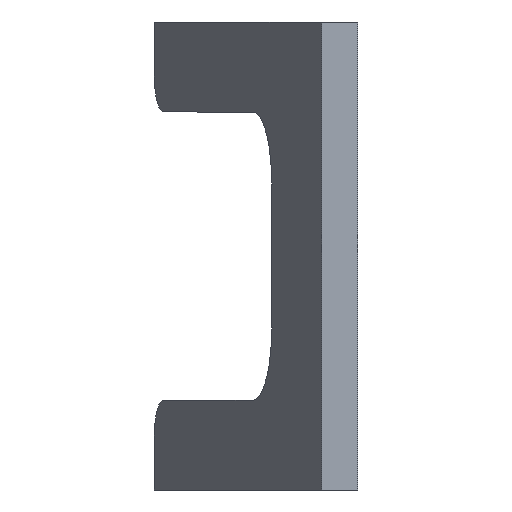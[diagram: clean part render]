
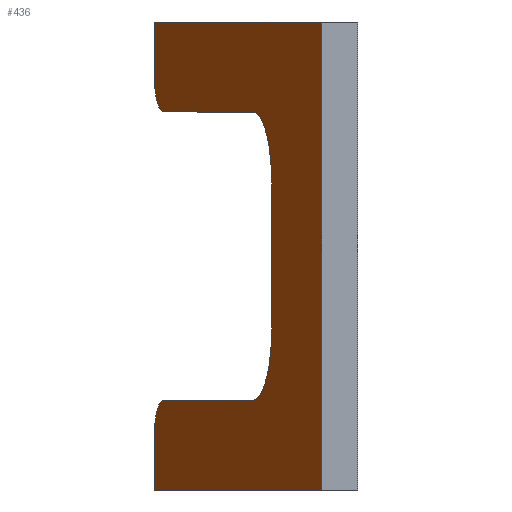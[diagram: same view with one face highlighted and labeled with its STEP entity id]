
A CAD part, left-side view. The second image highlights one B-rep face of the part: STEP entity #436.
In plain terms, the highlighted planar face has unit normal (-0.259, 0.966, 0).
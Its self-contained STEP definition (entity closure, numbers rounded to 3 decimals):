
#5 = CIRCLE ( 'NONE', #439, 10. ) ;
#7 = VERTEX_POINT ( 'NONE', #691 ) ;
#8 = CARTESIAN_POINT ( 'NONE',  ( 61.05, 23.243, -32.5 ) ) ;
#10 = VERTEX_POINT ( 'NONE', #408 ) ;
#13 = ORIENTED_EDGE ( 'NONE', *, *, #153, .T. ) ;
#44 = EDGE_CURVE ( 'NONE', #152, #7, #346, .T. ) ;
#53 = VECTOR ( 'NONE', #171, 1000. ) ;
#61 = PLANE ( 'NONE',  #202 ) ;
#63 = DIRECTION ( 'NONE',  ( -0.259, 0.966, 0. ) ) ;
#64 = ORIENTED_EDGE ( 'NONE', *, *, #44, .T. ) ;
#68 = DIRECTION ( 'NONE',  ( 0.966, 0.259, 0. ) ) ;
#89 = EDGE_LOOP ( 'NONE', ( #184, #275, #117, #186, #549, #64, #435, #13, #156, #266, #444, #649 ) ) ;
#91 = AXIS2_PLACEMENT_3D ( 'NONE', #97, #588, #311 ) ;
#97 = CARTESIAN_POINT ( 'NONE',  ( 56.22, 21.949, -25. ) ) ;
#117 = ORIENTED_EDGE ( 'NONE', *, *, #398, .T. ) ;
#122 = DIRECTION ( 'NONE',  ( 0., 0., 1. ) ) ;
#152 = VERTEX_POINT ( 'NONE', #470 ) ;
#153 = EDGE_CURVE ( 'NONE', #605, #10, #5, .T. ) ;
#154 = CARTESIAN_POINT ( 'NONE',  ( -25.504, 0.051, -32.5 ) ) ;
#156 = ORIENTED_EDGE ( 'NONE', *, *, #552, .T. ) ;
#166 = LINE ( 'NONE', #220, #496 ) ;
#169 = AXIS2_PLACEMENT_3D ( 'NONE', #307, #515, #628 ) ;
#171 = DIRECTION ( 'NONE',  ( 0., 0., -1. ) ) ;
#172 = VERTEX_POINT ( 'NONE', #315 ) ;
#184 = ORIENTED_EDGE ( 'NONE', *, *, #329, .F. ) ;
#186 = ORIENTED_EDGE ( 'NONE', *, *, #431, .T. ) ;
#192 = DIRECTION ( 'NONE',  ( 0.966, 0.259, 0. ) ) ;
#195 = CARTESIAN_POINT ( 'NONE',  ( 56.22, 21.949, -20. ) ) ;
#196 = DIRECTION ( 'NONE',  ( 0.259, -0.966, 0. ) ) ;
#197 = VERTEX_POINT ( 'NONE', #601 ) ;
#202 = AXIS2_PLACEMENT_3D ( 'NONE', #611, #63, #334 ) ;
#220 = CARTESIAN_POINT ( 'NONE',  ( 0.196, 6.938, -10. ) ) ;
#225 = LINE ( 'NONE', #438, #450 ) ;
#229 = DIRECTION ( 'NONE',  ( 0., 0., -1. ) ) ;
#239 = LINE ( 'NONE', #560, #53 ) ;
#244 = CARTESIAN_POINT ( 'NONE',  ( 61.05, 23.243, 32.5 ) ) ;
#253 = CARTESIAN_POINT ( 'NONE',  ( 56.22, 21.949, -20. ) ) ;
#266 = ORIENTED_EDGE ( 'NONE', *, *, #658, .T. ) ;
#270 = EDGE_CURVE ( 'NONE', #7, #605, #166, .T. ) ;
#275 = ORIENTED_EDGE ( 'NONE', *, *, #420, .T. ) ;
#307 = CARTESIAN_POINT ( 'NONE',  ( 9.855, 9.526, 10. ) ) ;
#308 = VERTEX_POINT ( 'NONE', #486 ) ;
#311 = DIRECTION ( 'NONE',  ( 0., 0., 1. ) ) ;
#315 = CARTESIAN_POINT ( 'NONE',  ( 61.05, 23.243, 25. ) ) ;
#326 = VECTOR ( 'NONE', #229, 1000. ) ;
#329 = EDGE_CURVE ( 'NONE', #663, #692, #239, .T. ) ;
#334 = DIRECTION ( 'NONE',  ( 0., 0., 1. ) ) ;
#346 = CIRCLE ( 'NONE', #169, 10. ) ;
#352 = CARTESIAN_POINT ( 'NONE',  ( -63.555, -10.144, -32.5 ) ) ;
#370 = DIRECTION ( 'NONE',  ( -0.966, -0.259, 0. ) ) ;
#398 = EDGE_CURVE ( 'NONE', #447, #172, #225, .T. ) ;
#405 = LINE ( 'NONE', #352, #682 ) ;
#408 = CARTESIAN_POINT ( 'NONE',  ( 9.855, 9.526, -20. ) ) ;
#420 = EDGE_CURVE ( 'NONE', #663, #447, #553, .T. ) ;
#426 = CARTESIAN_POINT ( 'NONE',  ( 56.22, 21.949, 20. ) ) ;
#431 = EDGE_CURVE ( 'NONE', #172, #197, #545, .T. ) ;
#435 = ORIENTED_EDGE ( 'NONE', *, *, #270, .T. ) ;
#436 = ADVANCED_FACE ( 'NONE', ( #500 ), #61, .T. ) ;
#438 = CARTESIAN_POINT ( 'NONE',  ( 61.05, 23.243, 25. ) ) ;
#439 = AXIS2_PLACEMENT_3D ( 'NONE', #467, #196, #637 ) ;
#444 = ORIENTED_EDGE ( 'NONE', *, *, #445, .T. ) ;
#445 = EDGE_CURVE ( 'NONE', #308, #666, #502, .T. ) ;
#447 = VERTEX_POINT ( 'NONE', #244 ) ;
#450 = VECTOR ( 'NONE', #662, 1000. ) ;
#467 = CARTESIAN_POINT ( 'NONE',  ( 9.855, 9.526, -10. ) ) ;
#470 = CARTESIAN_POINT ( 'NONE',  ( 9.855, 9.526, 20. ) ) ;
#486 = CARTESIAN_POINT ( 'NONE',  ( 61.05, 23.243, -25. ) ) ;
#496 = VECTOR ( 'NONE', #526, 1000. ) ;
#500 = FACE_OUTER_BOUND ( 'NONE', #89, .T. ) ;
#502 = LINE ( 'NONE', #8, #326 ) ;
#505 = EDGE_CURVE ( 'NONE', #666, #692, #405, .T. ) ;
#506 = DIRECTION ( 'NONE',  ( -0.259, 0.966, 0. ) ) ;
#508 = AXIS2_PLACEMENT_3D ( 'NONE', #665, #506, #122 ) ;
#515 = DIRECTION ( 'NONE',  ( 0.259, -0.966, 0. ) ) ;
#520 = LINE ( 'NONE', #195, #528 ) ;
#525 = CARTESIAN_POINT ( 'NONE',  ( 61.05, 23.243, -32.5 ) ) ;
#526 = DIRECTION ( 'NONE',  ( 0., 0., -1. ) ) ;
#528 = VECTOR ( 'NONE', #192, 1000. ) ;
#545 = CIRCLE ( 'NONE', #508, 5. ) ;
#549 = ORIENTED_EDGE ( 'NONE', *, *, #669, .T. ) ;
#550 = CARTESIAN_POINT ( 'NONE',  ( -63.555, -10.144, 32.5 ) ) ;
#552 = EDGE_CURVE ( 'NONE', #10, #554, #520, .T. ) ;
#553 = LINE ( 'NONE', #550, #660 ) ;
#554 = VERTEX_POINT ( 'NONE', #253 ) ;
#556 = VECTOR ( 'NONE', #370, 1000. ) ;
#560 = CARTESIAN_POINT ( 'NONE',  ( -25.504, 0.051, -25. ) ) ;
#588 = DIRECTION ( 'NONE',  ( -0.259, 0.966, 0. ) ) ;
#597 = CARTESIAN_POINT ( 'NONE',  ( -25.504, 0.051, 32.5 ) ) ;
#601 = CARTESIAN_POINT ( 'NONE',  ( 56.22, 21.949, 20. ) ) ;
#605 = VERTEX_POINT ( 'NONE', #702 ) ;
#611 = CARTESIAN_POINT ( 'NONE',  ( 56.22, 21.949, -25. ) ) ;
#615 = CIRCLE ( 'NONE', #91, 5. ) ;
#628 = DIRECTION ( 'NONE',  ( 0., 0., 1. ) ) ;
#637 = DIRECTION ( 'NONE',  ( 0., 0., -1. ) ) ;
#649 = ORIENTED_EDGE ( 'NONE', *, *, #505, .T. ) ;
#652 = LINE ( 'NONE', #426, #556 ) ;
#658 = EDGE_CURVE ( 'NONE', #554, #308, #615, .T. ) ;
#660 = VECTOR ( 'NONE', #68, 1000. ) ;
#662 = DIRECTION ( 'NONE',  ( 0., 0., -1. ) ) ;
#663 = VERTEX_POINT ( 'NONE', #597 ) ;
#665 = CARTESIAN_POINT ( 'NONE',  ( 56.22, 21.949, 25. ) ) ;
#666 = VERTEX_POINT ( 'NONE', #525 ) ;
#669 = EDGE_CURVE ( 'NONE', #197, #152, #652, .T. ) ;
#682 = VECTOR ( 'NONE', #685, 1000. ) ;
#685 = DIRECTION ( 'NONE',  ( -0.966, -0.259, 0. ) ) ;
#691 = CARTESIAN_POINT ( 'NONE',  ( 0.196, 6.938, 10. ) ) ;
#692 = VERTEX_POINT ( 'NONE', #154 ) ;
#702 = CARTESIAN_POINT ( 'NONE',  ( 0.196, 6.938, -10. ) ) ;
